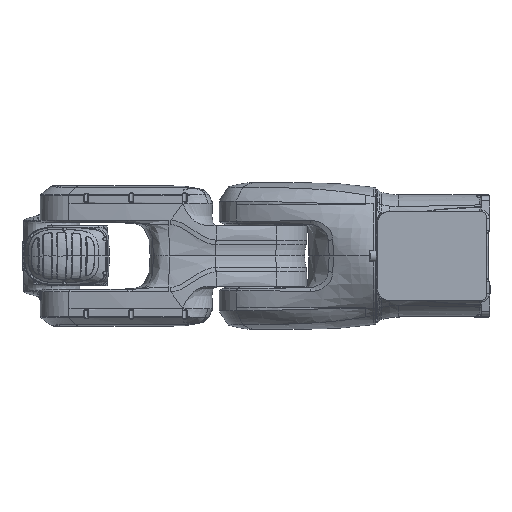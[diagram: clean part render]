
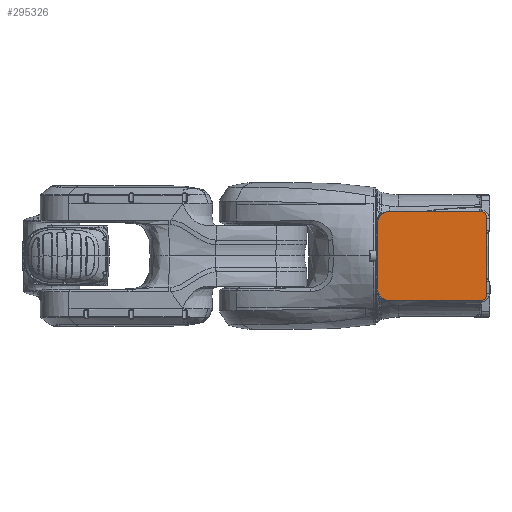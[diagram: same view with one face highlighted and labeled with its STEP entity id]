
A CAD part, left-side view. The second image highlights one B-rep face of the part: STEP entity #295326.
In plain terms, the highlighted planar face has unit normal (-1, 0, 0).
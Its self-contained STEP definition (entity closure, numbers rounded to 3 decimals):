
#643 = CARTESIAN_POINT ( 'NONE',  ( -165., 190.977, -66.363 ) ) ;
#2410 = CARTESIAN_POINT ( 'NONE',  ( -165., 178.194, -76.858 ) ) ;
#7443 = VERTEX_POINT ( 'NONE', #324974 ) ;
#8292 = PLANE ( 'NONE',  #217063 ) ;
#12442 = CARTESIAN_POINT ( 'NONE',  ( -165., 193., 57.5 ) ) ;
#22062 = ORIENTED_EDGE ( 'NONE', *, *, #335882, .F. ) ;
#27701 = LINE ( 'NONE', #298955, #243415 ) ;
#29941 = DIRECTION ( 'NONE',  ( 0., 0., -1. ) ) ;
#32888 = CARTESIAN_POINT ( 'NONE',  ( -165., 183.015, -74.861 ) ) ;
#37584 = CARTESIAN_POINT ( 'NONE',  ( -165., 192.602, 61.842 ) ) ;
#38823 = DIRECTION ( 'NONE',  ( 0., -1., 0. ) ) ;
#41130 = CARTESIAN_POINT ( 'NONE',  ( -165., 173., 77.5 ) ) ;
#52846 = DIRECTION ( 'NONE',  ( 0., 1., 0. ) ) ;
#58046 = CARTESIAN_POINT ( 'NONE',  ( -165., 186.217, -72.568 ) ) ;
#59578 = CIRCLE ( 'NONE', #352147, 10. ) ;
#60204 = AXIS2_PLACEMENT_3D ( 'NONE', #153008, #235662, #180014 ) ;
#77534 = DIRECTION ( 'NONE',  ( 1., 0., 0. ) ) ;
#83234 = CARTESIAN_POINT ( 'NONE',  ( -165., 188.897, -69.707 ) ) ;
#84603 = CARTESIAN_POINT ( 'NONE',  ( -165., 13., -67.5 ) ) ;
#95014 = CARTESIAN_POINT ( 'NONE',  ( -165., 180.387, 76.247 ) ) ;
#95869 = CARTESIAN_POINT ( 'NONE',  ( -165., 13., 77.5 ) ) ;
#96779 = CARTESIAN_POINT ( 'NONE',  ( -165., 175.091, 77.399 ) ) ;
#104123 = ORIENTED_EDGE ( 'NONE', *, *, #287741, .F. ) ;
#110730 = DIRECTION ( 'NONE',  ( 1., 0., 0. ) ) ;
#113723 = VERTEX_POINT ( 'NONE', #176529 ) ;
#116034 = CARTESIAN_POINT ( 'NONE',  ( -165., -3., 0. ) ) ;
#122032 = VERTEX_POINT ( 'NONE', #153349 ) ;
#123039 = VERTEX_POINT ( 'NONE', #95869 ) ;
#134375 = DIRECTION ( 'NONE',  ( 0., 0., 1. ) ) ;
#143365 = EDGE_LOOP ( 'NONE', ( #177623, #104123, #22062, #345184, #170939, #285294, #286943, #337859 ) ) ;
#148865 = CARTESIAN_POINT ( 'NONE',  ( -165., 189.785, 68.608 ) ) ;
#153008 = CARTESIAN_POINT ( 'NONE',  ( -165., 13., 67.5 ) ) ;
#153349 = CARTESIAN_POINT ( 'NONE',  ( -165., 193., -57.5 ) ) ;
#154080 = LINE ( 'NONE', #295972, #250200 ) ;
#155549 = VECTOR ( 'NONE', #134375, 1000. ) ;
#161680 = EDGE_CURVE ( 'NONE', #167864, #113723, #154080, .T. ) ;
#164050 = CARTESIAN_POINT ( 'NONE',  ( -165., 173., -77.5 ) ) ;
#165812 = CARTESIAN_POINT ( 'NONE',  ( -165., 193., -57.5 ) ) ;
#167603 = CARTESIAN_POINT ( 'NONE',  ( -165., 179.445, -76.479 ) ) ;
#167864 = VERTEX_POINT ( 'NONE', #301083 ) ;
#170939 = ORIENTED_EDGE ( 'NONE', *, *, #208508, .T. ) ;
#174067 = CARTESIAN_POINT ( 'NONE',  ( -165., 192.899, 59.592 ) ) ;
#175324 = LINE ( 'NONE', #284896, #289967 ) ;
#175852 = CARTESIAN_POINT ( 'NONE',  ( -165., 187.247, 71.747 ) ) ;
#176529 = CARTESIAN_POINT ( 'NONE',  ( -165., 3., -67.5 ) ) ;
#177623 = ORIENTED_EDGE ( 'NONE', *, *, #314982, .F. ) ;
#179403 = CARTESIAN_POINT ( 'NONE',  ( -165., 174.047, 77.482 ) ) ;
#180014 = DIRECTION ( 'NONE',  ( 0., 0., 1. ) ) ;
#180427 = CARTESIAN_POINT ( 'NONE',  ( -165., 193., 57.5 ) ) ;
#192738 = CARTESIAN_POINT ( 'NONE',  ( -165., 188.068, -70.717 ) ) ;
#195069 = EDGE_CURVE ( 'NONE', #122032, #329091, #349998, .T. ) ;
#204532 = CARTESIAN_POINT ( 'NONE',  ( -165., 173.349, 77.5 ) ) ;
#208508 = EDGE_CURVE ( 'NONE', #122032, #354976, #258097, .T. ) ;
#209850 = CARTESIAN_POINT ( 'NONE',  ( -165., 192.981, 58.547 ) ) ;
#217063 = AXIS2_PLACEMENT_3D ( 'NONE', #116034, #110730, #29941 ) ;
#223240 = CARTESIAN_POINT ( 'NONE',  ( -165., 192.358, -62.694 ) ) ;
#227930 = CARTESIAN_POINT ( 'NONE',  ( -165., 173., -77.5 ) ) ;
#231493 = CARTESIAN_POINT ( 'NONE',  ( -165., 184.108, 74.285 ) ) ;
#235662 = DIRECTION ( 'NONE',  ( 1., 0., 0. ) ) ;
#243415 = VECTOR ( 'NONE', #52846, 1000. ) ;
#244899 = CARTESIAN_POINT ( 'NONE',  ( -165., 192.872, -60.109 ) ) ;
#245728 = CARTESIAN_POINT ( 'NONE',  ( -165., 193., 77.5 ) ) ;
#250200 = VECTOR ( 'NONE', #346330, 1000. ) ;
#258097 = B_SPLINE_CURVE_WITH_KNOTS ( 'NONE', 3,
 ( #165812, #277179, #244899, #223240, #331099, #643, #329336, #83234, #192738, #58046, #354506, #32888, #300622, #167603, #2410, #302374, #305900, #164050 ),
 .UNSPECIFIED., .F., .F.,
 ( 4, 2, 2, 2, 2, 2, 2, 2, 4 ),
 ( 0., 0.125, 0.25, 0.375, 0.5, 0.625, 0.75, 0.875, 1. ),
 .UNSPECIFIED. ) ;
#262017 = CARTESIAN_POINT ( 'NONE',  ( -165., 177.342, 77.102 ) ) ;
#271218 = CARTESIAN_POINT ( 'NONE',  ( -165., 173., 77.5 ) ) ;
#277179 = CARTESIAN_POINT ( 'NONE',  ( -165., 193., -58.809 ) ) ;
#284891 = VERTEX_POINT ( 'NONE', #271218 ) ;
#284896 = CARTESIAN_POINT ( 'NONE',  ( -165., 3., 77.5 ) ) ;
#285294 = ORIENTED_EDGE ( 'NONE', *, *, #350062, .F. ) ;
#285432 = CARTESIAN_POINT ( 'NONE',  ( -165., 191.747, 64.887 ) ) ;
#286943 = ORIENTED_EDGE ( 'NONE', *, *, #348691, .F. ) ;
#287741 = EDGE_CURVE ( 'NONE', #284891, #123039, #175324, .T. ) ;
#289967 = VECTOR ( 'NONE', #38823, 1000. ) ;
#295326 = ADVANCED_FACE ( 'NONE', ( #333447 ), #8292, .F. ) ;
#295972 = CARTESIAN_POINT ( 'NONE',  ( -165., 3., 0. ) ) ;
#298955 = CARTESIAN_POINT ( 'NONE',  ( -165., -3., -77.5 ) ) ;
#300622 = CARTESIAN_POINT ( 'NONE',  ( -165., 181.863, -75.477 ) ) ;
#301083 = CARTESIAN_POINT ( 'NONE',  ( -165., 3., 67.5 ) ) ;
#302374 = CARTESIAN_POINT ( 'NONE',  ( -165., 175.61, -77.371 ) ) ;
#305900 = CARTESIAN_POINT ( 'NONE',  ( -165., 174.309, -77.5 ) ) ;
#314982 = EDGE_CURVE ( 'NONE', #123039, #167864, #324333, .T. ) ;
#323613 = DIRECTION ( 'NONE',  ( 0., 0., 1. ) ) ;
#324333 = CIRCLE ( 'NONE', #60204, 10. ) ;
#324974 = CARTESIAN_POINT ( 'NONE',  ( -165., 13., -77.5 ) ) ;
#329091 = VERTEX_POINT ( 'NONE', #180427 ) ;
#329336 = CARTESIAN_POINT ( 'NONE',  ( -165., 190.361, -67.515 ) ) ;
#331099 = CARTESIAN_POINT ( 'NONE',  ( -165., 191.979, -63.944 ) ) ;
#333447 = FACE_OUTER_BOUND ( 'NONE', #143365, .T. ) ;
#335882 = EDGE_CURVE ( 'NONE', #329091, #284891, #354448, .T. ) ;
#337859 = ORIENTED_EDGE ( 'NONE', *, *, #161680, .F. ) ;
#345184 = ORIENTED_EDGE ( 'NONE', *, *, #195069, .F. ) ;
#346330 = DIRECTION ( 'NONE',  ( 0., 0., -1. ) ) ;
#346430 = CARTESIAN_POINT ( 'NONE',  ( -165., 193., 57.849 ) ) ;
#348691 = EDGE_CURVE ( 'NONE', #113723, #7443, #59578, .T. ) ;
#349998 = LINE ( 'NONE', #245728, #155549 ) ;
#350062 = EDGE_CURVE ( 'NONE', #7443, #354976, #27701, .T. ) ;
#352147 = AXIS2_PLACEMENT_3D ( 'NONE', #84603, #77534, #323613 ) ;
#354448 = B_SPLINE_CURVE_WITH_KNOTS ( 'NONE', 3,
 ( #12442, #346430, #209850, #174067, #37584, #285432, #148865, #175852, #231493, #95014, #262017, #96779, #179403, #204532, #41130 ),
 .UNSPECIFIED., .F., .F.,
 ( 4, 1, 1, 1, 1, 1, 1, 1, 1, 1, 1, 1, 4 ),
 ( 0., 0.033, 0.067, 0.1, 0.25, 0.367, 0.5, 0.633, 0.75, 0.9, 0.933, 0.967, 1. ),
 .UNSPECIFIED. ) ;
#354506 = CARTESIAN_POINT ( 'NONE',  ( -165., 185.207, -73.397 ) ) ;
#354976 = VERTEX_POINT ( 'NONE', #227930 ) ;
